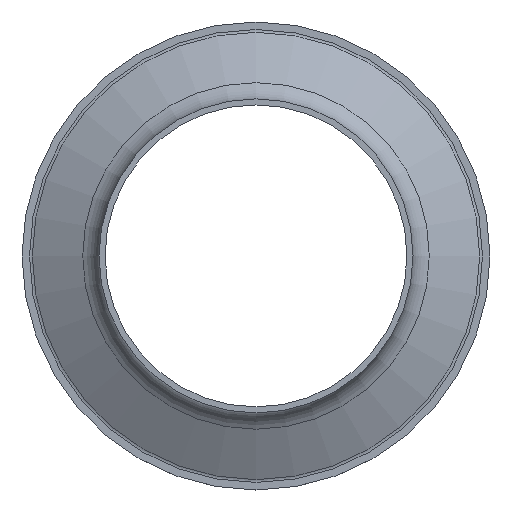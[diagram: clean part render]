
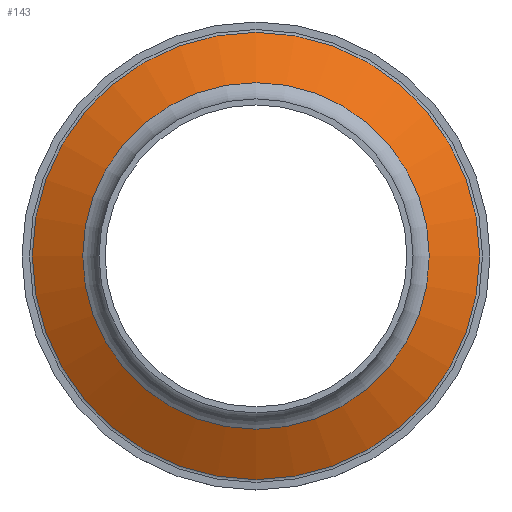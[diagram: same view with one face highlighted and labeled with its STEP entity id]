
A CAD part, top view. The second image highlights one B-rep face of the part: STEP entity #143.
In plain terms, the highlighted conical face has half-angle 62.463 degrees and reference radius 28.688 mm.
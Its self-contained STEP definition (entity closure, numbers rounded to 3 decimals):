
#98=CARTESIAN_POINT('',(37.038,0.,1.613));
#99=VERTEX_POINT('',#98);
#107=CARTESIAN_POINT('',(0.,0.,1.613));
#108=DIRECTION('',(1.,0.,0.));
#109=DIRECTION('',(0.,0.,1.));
#110=AXIS2_PLACEMENT_3D('',#107,#109,#108);
#111=CIRCLE('',#110,37.038);
#112=EDGE_CURVE('',#99,#99,#111,.T.);
#119=CARTESIAN_POINT('',(0.,0.,5.966));
#120=DIRECTION('',(1.,0.,0.));
#121=DIRECTION('',(0.,0.,-1.));
#122=AXIS2_PLACEMENT_3D('',#119,#121,#120);
#123=CONICAL_SURFACE('',#122,28.688,1.09);
#124=CARTESIAN_POINT('',(28.688,0.,5.966));
#125=VERTEX_POINT('',#124);
#126=CARTESIAN_POINT('',(37.038,0.,1.613));
#127=DIRECTION('',(-0.887,0.,0.462));
#128=VECTOR('',#127,9.416);
#129=LINE('',#126,#128);
#130=EDGE_CURVE('',#99,#125,#129,.T.);
#131=ORIENTED_EDGE('E3',*,*,#130,.T.);
#132=CARTESIAN_POINT('',(0.,0.,5.966));
#133=DIRECTION('',(1.,0.,-0.));
#134=DIRECTION('',(0.,0.,1.));
#135=AXIS2_PLACEMENT_3D('',#132,#134,#133);
#136=CIRCLE('',#135,28.688);
#137=EDGE_CURVE('',#125,#125,#136,.T.);
#138=ORIENTED_EDGE('E12',*,*,#137,.T.);
#139=ORIENTED_EDGE('E12',*,*,#130,.F.);
#140=ORIENTED_EDGE('E12',*,*,#112,.F.);
#141=EDGE_LOOP('',(#131,#138,#139,#140));
#142=FACE_OUTER_BOUND('',#141,.F.);
#143=ADVANCED_FACE('F5',(#142),#123,.T.);
